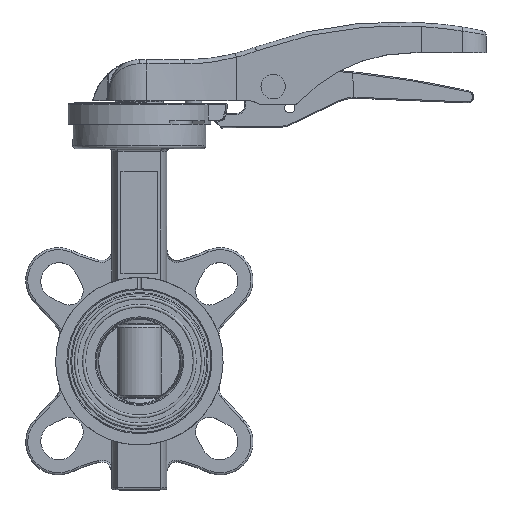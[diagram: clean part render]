
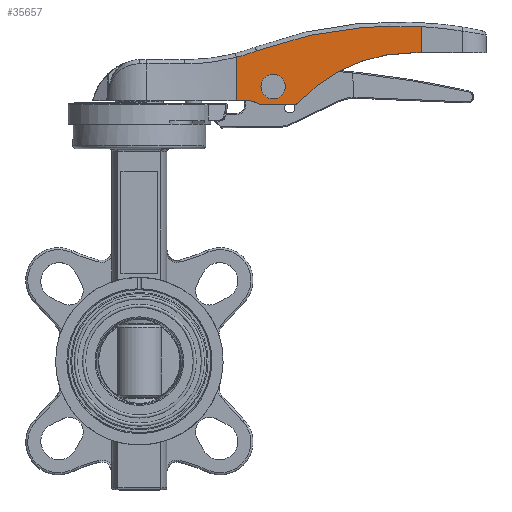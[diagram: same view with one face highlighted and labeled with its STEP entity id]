
A CAD part, top view. The second image highlights one B-rep face of the part: STEP entity #35657.
In plain terms, the highlighted planar face has unit normal (0, 0, 1).
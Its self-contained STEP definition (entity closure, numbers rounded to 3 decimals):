
#13249 = VERTEX_POINT ( 'NONE', #13251 ) ;
#13251 = CARTESIAN_POINT ( 'NONE',  ( 59.5, 134.4, 11.75 ) ) ;
#18435 = CARTESIAN_POINT ( 'NONE',  ( 47.444, 148.724, 11.75 ) ) ;
#18755 = AXIS2_PLACEMENT_3D ( 'NONE', #18786, #18837, #18836 ) ;
#18782 = AXIS2_PLACEMENT_3D ( 'NONE', #18826, #18817, #18816 ) ;
#18783 = DIRECTION ( 'NONE',  ( -1., 0., 0. ) ) ;
#18784 = DIRECTION ( 'NONE',  ( 0., 0., 1. ) ) ;
#18785 = CARTESIAN_POINT ( 'NONE',  ( 75.661, 128.5, 11.75 ) ) ;
#18786 = CARTESIAN_POINT ( 'NONE',  ( 47.444, 212.9, 11.75 ) ) ;
#18787 = CIRCLE ( 'NONE', #18832, 75. ) ;
#18788 = AXIS2_PLACEMENT_3D ( 'NONE', #18785, #18784, #18783 ) ;
#18789 = DIRECTION ( 'NONE',  ( -1., 0., 0. ) ) ;
#18790 = DIRECTION ( 'NONE',  ( 0., 0., 1. ) ) ;
#18791 = PLANE ( 'NONE',  #18755 ) ;
#18792 = CARTESIAN_POINT ( 'NONE',  ( 75.661, 125.5, 11.75 ) ) ;
#18793 = CIRCLE ( 'NONE', #18808, 198. ) ;
#18794 = FACE_OUTER_BOUND ( 'NONE', #35656, .T. ) ;
#18798 = CARTESIAN_POINT ( 'NONE',  ( 126., -33.897, 11.75 ) ) ;
#18803 = CIRCLE ( 'NONE', #18788, 3. ) ;
#18808 = AXIS2_PLACEMENT_3D ( 'NONE', #18798, #18790, #18789 ) ;
#18809 = CARTESIAN_POINT ( 'NONE',  ( 138., 163.74, 11.75 ) ) ;
#18815 = CARTESIAN_POINT ( 'NONE',  ( 138., 150.9, 11.75 ) ) ;
#18816 = DIRECTION ( 'NONE',  ( -1., 0., 0. ) ) ;
#18817 = DIRECTION ( 'NONE',  ( 0., 0., -1. ) ) ;
#18821 = CARTESIAN_POINT ( 'NONE',  ( 133.257, 150.9, 11.75 ) ) ;
#18822 = DIRECTION ( 'NONE',  ( -1., 0., 0. ) ) ;
#18823 = VECTOR ( 'NONE', #18822, 1000. ) ;
#18824 = CARTESIAN_POINT ( 'NONE',  ( 47.444, 125.5, 11.75 ) ) ;
#18825 = LINE ( 'NONE', #18824, #18823 ) ;
#18826 = CARTESIAN_POINT ( 'NONE',  ( 22., 247.5, 11.75 ) ) ;
#18827 = LINE ( 'NONE', #18867, #18866 ) ;
#18828 = CARTESIAN_POINT ( 'NONE',  ( 57.36, 151.825, 11.75 ) ) ;
#18829 = DIRECTION ( 'NONE',  ( -1., 0., 0. ) ) ;
#18830 = DIRECTION ( 'NONE',  ( 0., 0., 1. ) ) ;
#18831 = CARTESIAN_POINT ( 'NONE',  ( 133.257, 75.9, 11.75 ) ) ;
#18832 = AXIS2_PLACEMENT_3D ( 'NONE', #18831, #18830, #18829 ) ;
#18833 = CIRCLE ( 'NONE', #18782, 102. ) ;
#18834 = CARTESIAN_POINT ( 'NONE',  ( 77.877, 126.477, 11.75 ) ) ;
#18836 = DIRECTION ( 'NONE',  ( -1., 0., 0. ) ) ;
#18837 = DIRECTION ( 'NONE',  ( 0., 0., -1. ) ) ;
#18838 = CARTESIAN_POINT ( 'NONE',  ( 59.804, 125.5, 11.75 ) ) ;
#18839 = FACE_BOUND ( 'NONE', #35694, .T. ) ;
#18840 = DIRECTION ( 'NONE',  ( 0., -1., 0. ) ) ;
#18841 = VECTOR ( 'NONE', #18840, 1000. ) ;
#18842 = CARTESIAN_POINT ( 'NONE',  ( 138., 212.9, 11.75 ) ) ;
#18843 = LINE ( 'NONE', #18842, #18841 ) ;
#18848 = CARTESIAN_POINT ( 'NONE',  ( 58.304, 125.902, 11.75 ) ) ;
#18865 = DIRECTION ( 'NONE',  ( -1., 0., 0. ) ) ;
#18866 = VECTOR ( 'NONE', #18865, 1000. ) ;
#18867 = CARTESIAN_POINT ( 'NONE',  ( 47.444, 150.9, 11.75 ) ) ;
#18868 = CIRCLE ( 'NONE', #18871, 10. ) ;
#18869 = CARTESIAN_POINT ( 'NONE',  ( 52.856, 127.5, 11.75 ) ) ;
#18871 = AXIS2_PLACEMENT_3D ( 'NONE', #18878, #18877, #18931 ) ;
#18872 = DIRECTION ( 'NONE',  ( -1., 0., 0. ) ) ;
#18873 = DIRECTION ( 'NONE',  ( 0., 0., -1. ) ) ;
#18874 = CARTESIAN_POINT ( 'NONE',  ( 65.5, 134.4, 11.75 ) ) ;
#18876 = LINE ( 'NONE', #18927, #18926 ) ;
#18877 = DIRECTION ( 'NONE',  ( 0., 0., 1. ) ) ;
#18878 = CARTESIAN_POINT ( 'NONE',  ( 52.856, 117.5, 11.75 ) ) ;
#18882 = CIRCLE ( 'NONE', #18896, 6. ) ;
#18883 = DIRECTION ( 'NONE',  ( -1., 0., 0. ) ) ;
#18884 = VECTOR ( 'NONE', #18883, 1000. ) ;
#18885 = CARTESIAN_POINT ( 'NONE',  ( 47.444, 127.5, 11.75 ) ) ;
#18886 = LINE ( 'NONE', #18885, #18884 ) ;
#18887 = CARTESIAN_POINT ( 'NONE',  ( 47.444, 127.5, 11.75 ) ) ;
#18888 = DIRECTION ( 'NONE',  ( -0.866, 0.5, 0. ) ) ;
#18889 = VECTOR ( 'NONE', #18888, 1000. ) ;
#18890 = DIRECTION ( 'NONE',  ( -1., 0., 0. ) ) ;
#18891 = DIRECTION ( 'NONE',  ( 0., 0., 1. ) ) ;
#18892 = CARTESIAN_POINT ( 'NONE',  ( 59.804, 128.5, 11.75 ) ) ;
#18893 = AXIS2_PLACEMENT_3D ( 'NONE', #18892, #18891, #18890 ) ;
#18894 = CARTESIAN_POINT ( 'NONE',  ( 12.488, 152.354, 11.75 ) ) ;
#18895 = LINE ( 'NONE', #18894, #18889 ) ;
#18896 = AXIS2_PLACEMENT_3D ( 'NONE', #18874, #18873, #18872 ) ;
#18902 = CIRCLE ( 'NONE', #18893, 3. ) ;
#18917 = CARTESIAN_POINT ( 'NONE',  ( 57.856, 126.16, 11.75 ) ) ;
#18925 = DIRECTION ( 'NONE',  ( 0., -1., 0. ) ) ;
#18926 = VECTOR ( 'NONE', #18925, 1000. ) ;
#18927 = CARTESIAN_POINT ( 'NONE',  ( 47.444, 212.9, 11.75 ) ) ;
#18931 = DIRECTION ( 'NONE',  ( -1., 0., 0. ) ) ;
#35284 = ORIENTED_EDGE ( 'NONE', *, *, #35708, .T. ) ;
#35402 = VERTEX_POINT ( 'NONE', #18435 ) ;
#35649 = ORIENTED_EDGE ( 'NONE', *, *, #35654, .F. ) ;
#35650 = EDGE_CURVE ( 'NONE', #35651, #35668, #18793, .T. ) ;
#35651 = VERTEX_POINT ( 'NONE', #18809 ) ;
#35652 = EDGE_CURVE ( 'NONE', #35659, #35663, #18803, .T. ) ;
#35654 = EDGE_CURVE ( 'NONE', #35651, #35672, #18843, .T. ) ;
#35655 = ORIENTED_EDGE ( 'NONE', *, *, #35662, .F. ) ;
#35656 = EDGE_LOOP ( 'NONE', ( #35719, #35658, #35655, #35716, #35649, #35714, #35670, #35284, #35702, #35712, #35706, #35699 ) ) ;
#35657 = ADVANCED_FACE ( 'NONE', ( #18794, #18839 ), #18791, .F. ) ;
#35658 = ORIENTED_EDGE ( 'NONE', *, *, #35652, .T. ) ;
#35659 = VERTEX_POINT ( 'NONE', #18792 ) ;
#35661 = VERTEX_POINT ( 'NONE', #18838 ) ;
#35662 = EDGE_CURVE ( 'NONE', #35667, #35663, #18787, .T. ) ;
#35663 = VERTEX_POINT ( 'NONE', #18834 ) ;
#35664 = EDGE_CURVE ( 'NONE', #35659, #35661, #18825, .T. ) ;
#35666 = EDGE_CURVE ( 'NONE', #35668, #35402, #18833, .T. ) ;
#35667 = VERTEX_POINT ( 'NONE', #18821 ) ;
#35668 = VERTEX_POINT ( 'NONE', #18828 ) ;
#35669 = EDGE_CURVE ( 'NONE', #35672, #35667, #18827, .T. ) ;
#35670 = ORIENTED_EDGE ( 'NONE', *, *, #35666, .T. ) ;
#35672 = VERTEX_POINT ( 'NONE', #18815 ) ;
#35693 = VERTEX_POINT ( 'NONE', #18848 ) ;
#35694 = EDGE_LOOP ( 'NONE', ( #35701 ) ) ;
#35695 = EDGE_CURVE ( 'NONE', #35693, #35661, #18902, .T. ) ;
#35696 = EDGE_CURVE ( 'NONE', #35693, #35711, #18895, .T. ) ;
#35697 = EDGE_CURVE ( 'NONE', #35704, #35707, #18886, .T. ) ;
#35699 = ORIENTED_EDGE ( 'NONE', *, *, #35695, .T. ) ;
#35700 = EDGE_CURVE ( 'NONE', #13249, #13249, #18882, .T. ) ;
#35701 = ORIENTED_EDGE ( 'NONE', *, *, #35700, .T. ) ;
#35702 = ORIENTED_EDGE ( 'NONE', *, *, #35697, .F. ) ;
#35703 = EDGE_CURVE ( 'NONE', #35711, #35704, #18868, .T. ) ;
#35704 = VERTEX_POINT ( 'NONE', #18869 ) ;
#35706 = ORIENTED_EDGE ( 'NONE', *, *, #35696, .F. ) ;
#35707 = VERTEX_POINT ( 'NONE', #18887 ) ;
#35708 = EDGE_CURVE ( 'NONE', #35402, #35707, #18876, .T. ) ;
#35711 = VERTEX_POINT ( 'NONE', #18917 ) ;
#35712 = ORIENTED_EDGE ( 'NONE', *, *, #35703, .F. ) ;
#35714 = ORIENTED_EDGE ( 'NONE', *, *, #35650, .T. ) ;
#35716 = ORIENTED_EDGE ( 'NONE', *, *, #35669, .F. ) ;
#35719 = ORIENTED_EDGE ( 'NONE', *, *, #35664, .F. ) ;
